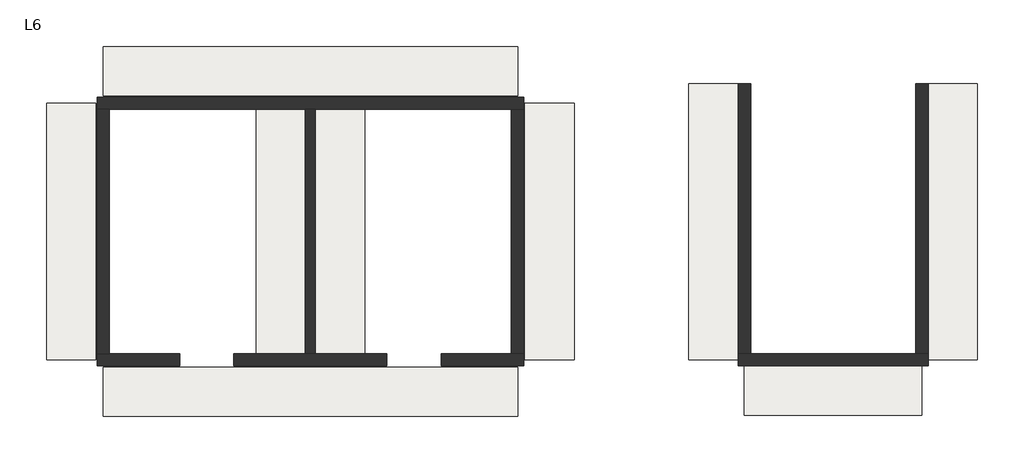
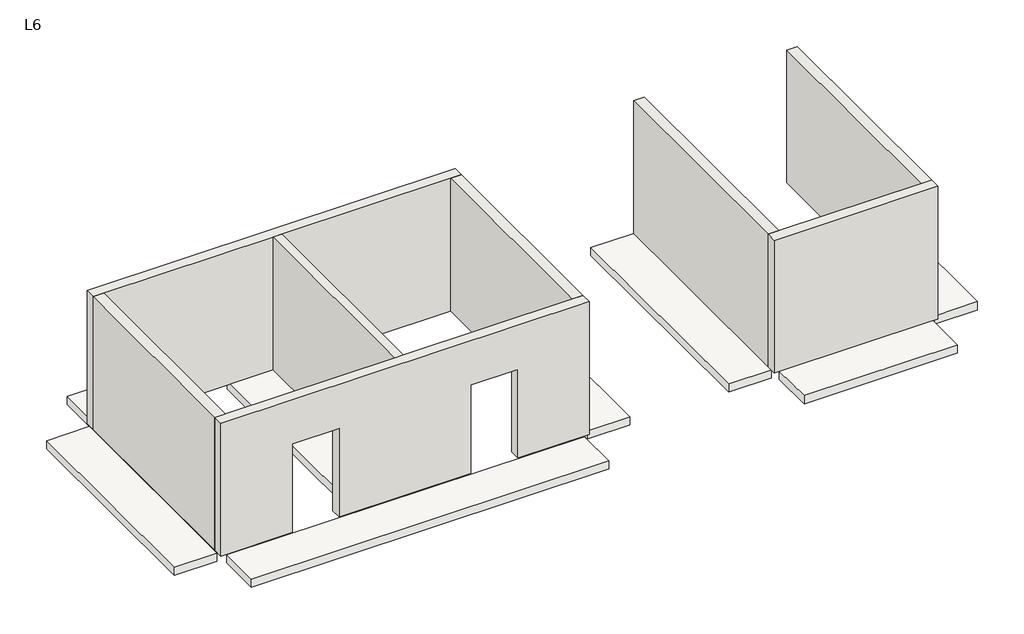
# One storey: 9 slabs, 8 walls.
"""IFC4 building model written with IfcOpenShell, lengths in millimetres."""

from ifc_helpers import new_model, si_unit, frame, origin, place, context, project, spatial, polyline, outline, extrude, faceted_brep, element, save

model = new_model("IFC4")

# Units and contexts
model_context = context("Model", 3, world=origin())
ifc_project = project(units=[si_unit("LENGTHUNIT", "METRE", prefix="MILLI")], contexts=[model_context])

# Site, building, storey
site = spatial("IfcSite", under=ifc_project)
building = spatial("IfcBuilding", under=site)
storey = spatial("IfcBuildingStorey", under=building, Name="L6", Elevation=17700.0)

# Slabs
placement = place(None, origin())
element("IfcSlab", 1, ObjectType="BS-Sàn 200", at=placement, inside=storey, context=model_context, shape_type="SweptSolid", body=[
    extrude(outline(polyline([(0.0, 6350.0), (8400.0, 6350.0), (8400.0, 5350.0), (0.0, 5350.0), (0.0, 6350.0)])), frame((0.0, 0.0, 17500.0), z_axis=(0.0, 0.0, 1.0), x_axis=(1.0, 0.0, 0.0)), (0.0, 0.0, 1.0), 200.0),
])
element("IfcSlab", 2, ObjectType="BS-Sàn 200", at=placement, inside=storey, context=model_context, shape_type="SweptSolid", body=[
    extrude(outline(polyline([(16725.0, 5600.0), (17725.0, 5600.0), (17725.0, 0.0), (16725.0, 0.0), (16725.0, 5600.0)])), frame((0.0, 0.0, 17500.0), z_axis=(0.0, 0.0, 1.0), x_axis=(1.0, 0.0, 0.0)), (0.0, 0.0, 1.0), 200.0),
])
element("IfcSlab", 3, ObjectType="BS-Sàn 200", at=placement, inside=storey, context=model_context, shape_type="SweptSolid", body=[
    extrude(outline(polyline([(11875.0, 5600.0), (12875.0, 5600.0), (12875.0, 0.0), (11875.0, 0.0), (11875.0, 5600.0)])), frame((0.0, 0.0, 17500.0), z_axis=(0.0, 0.0, 1.0), x_axis=(1.0, 0.0, 0.0)), (0.0, 0.0, 1.0), 200.0),
])
element("IfcSlab", 4, ObjectType="BS-Sàn 200", at=placement, inside=storey, context=model_context, shape_type="SweptSolid", body=[
    extrude(outline(polyline([(4300.0, 5200.0), (5300.0, 5200.0), (5300.0, 0.0), (4300.0, 0.0), (4300.0, 5200.0)])), frame((0.0, 0.0, 17500.0), z_axis=(0.0, 0.0, 1.0), x_axis=(1.0, 0.0, 0.0)), (0.0, 0.0, 1.0), 200.0),
])
element("IfcSlab", 5, ObjectType="BS-Sàn 200", at=placement, inside=storey, context=model_context, shape_type="SweptSolid", body=[
    extrude(outline(polyline([(3100.0, 5200.0), (4100.0, 5200.0), (4100.0, 0.0), (3100.0, 0.0), (3100.0, 5200.0)])), frame((0.0, 0.0, 17500.0), z_axis=(0.0, 0.0, 1.0), x_axis=(1.0, 0.0, 0.0)), (0.0, 0.0, 1.0), 200.0),
])
element("IfcSlab", 6, ObjectType="BS-Sàn 200", at=placement, inside=storey, context=model_context, shape_type="SweptSolid", body=[
    extrude(outline(polyline([(8550.0, 5200.0), (9550.0, 5200.0), (9550.0, 0.0), (8550.0, 0.0), (8550.0, 5200.0)])), frame((0.0, 0.0, 17500.0), z_axis=(0.0, 0.0, 1.0), x_axis=(1.0, 0.0, 0.0)), (0.0, 0.0, 1.0), 200.0),
])
element("IfcSlab", 7, ObjectType="BS-Sàn 200", at=placement, inside=storey, context=model_context, shape_type="SweptSolid", body=[
    extrude(outline(polyline([(-1150.0, 5200.0), (-150.0, 5200.0), (-150.0, 0.0), (-1150.0, 0.0), (-1150.0, 5200.0)])), frame((0.0, 0.0, 17500.0), z_axis=(0.0, 0.0, 1.0), x_axis=(1.0, 0.0, 0.0)), (0.0, 0.0, 1.0), 200.0),
])
element("IfcSlab", 8, ObjectType="BS-Sàn 200", at=placement, inside=storey, context=model_context, shape_type="SweptSolid", body=[
    extrude(outline(polyline([(13000.0, -125.0), (16600.0, -125.0), (16600.0, -1125.0), (13000.0, -1125.0), (13000.0, -125.0)])), frame((0.0, 0.0, 17500.0), z_axis=(0.0, 0.0, 1.0), x_axis=(1.0, 0.0, 0.0)), (0.0, 0.0, 1.0), 200.0),
])
element("IfcSlab", 9, ObjectType="BS-Sàn 200", at=placement, inside=storey, context=model_context, shape_type="SweptSolid", body=[
    extrude(outline(polyline([(0.0, -150.0), (8400.0, -150.0), (8400.0, -1150.0), (0.0, -1150.0), (0.0, -150.0)])), frame((0.0, 0.0, 17500.0), z_axis=(0.0, 0.0, 1.0), x_axis=(1.0, 0.0, 0.0)), (0.0, 0.0, 1.0), 200.0),
])

# Walls
element("IfcWall", 10, ObjectType="BS-Vách 250", at=placement, inside=storey, context=model_context, shape_type="Brep", body=[
    faceted_brep([(-125.0, 5075.0, 17700.0), (125.0, 5075.0, 17700.0), (4100.0, 5075.0, 17700.0), (4300.0, 5075.0, 17700.0), (8275.0, 5075.0, 17700.0), (8525.0, 5075.0, 17700.0), (8525.0, 5075.0, 21000.0), (8275.0, 5075.0, 21000.0), (4300.0, 5075.0, 21000.0), (4100.0, 5075.0, 21000.0), (125.0, 5075.0, 21000.0), (-125.0, 5075.0, 21000.0), (-125.0, 5325.0, 17700.0), (-125.0, 5325.0, 21000.0), (8525.0, 5325.0, 21000.0), (8525.0, 5325.0, 17700.0)], [[[0, 1, 2, 3, 4, 5, 6, 7, 8, 9, 10, 11]], [[12, 13, 14, 15]], [[5, 4, 3, 2, 1, 0, 12, 15]], [[11, 10, 9, 8, 7, 6, 14, 13]], [[6, 5, 15, 14]], [[0, 11, 13, 12]]]),
])
element("IfcWall", 11, ObjectType="BS-Vách 250", at=placement, inside=storey, context=model_context, shape_type="Brep", body=[
    faceted_brep([(8525.0, -125.0, 17700.0), (8525.0, -125.0, 21000.0), (-125.0, -125.0, 21000.0), (-125.0, -125.0, 17700.0), (1550.0, -125.0, 17700.0), (1550.0, -125.0, 19900.0), (2650.0, -125.0, 19900.0), (2650.0, -125.0, 17700.0), (5750.0, -125.0, 17700.0), (5750.0, -125.0, 19900.0), (6850.0, -125.0, 19900.0), (6850.0, -125.0, 17700.0), (8525.0, 125.0, 21000.0), (8525.0, 125.0, 17700.0), (8275.0, 125.0, 17700.0), (6850.0, 125.0, 17700.0), (6850.0, 125.0, 19900.0), (5750.0, 125.0, 19900.0), (5750.0, 125.0, 17700.0), (4300.0, 125.0, 17700.0), (4100.0, 125.0, 17700.0), (2650.0, 125.0, 17700.0), (2650.0, 125.0, 19900.0), (1550.0, 125.0, 19900.0), (1550.0, 125.0, 17700.0), (125.0, 125.0, 17700.0), (-125.0, 125.0, 17700.0), (-125.0, 125.0, 21000.0), (125.0, 125.0, 21000.0), (4100.0, 125.0, 21000.0), (4300.0, 125.0, 21000.0), (8275.0, 125.0, 21000.0)], [[[0, 1, 2, 3, 4, 5, 6, 7, 8, 9, 10, 11]], [[12, 13, 14, 15, 16, 17, 18, 19, 20, 21, 22, 23, 24, 25, 26, 27, 28, 29, 30, 31]], [[7, 21, 20, 19, 18, 8]], [[13, 0, 11, 15, 14]], [[3, 26, 25, 24, 4]], [[2, 1, 12, 31, 30, 29, 28, 27]], [[5, 23, 22, 6]], [[23, 5, 4, 24]], [[6, 22, 21, 7]], [[9, 17, 16, 10]], [[17, 9, 8, 18]], [[10, 16, 15, 11]], [[1, 0, 13, 12]], [[3, 2, 27, 26]]]),
])
element("IfcWall", 12, ObjectType="BS-Vách 250", at=placement, inside=storey, context=model_context, shape_type="SweptSolid", body=[
    extrude(outline(polyline([(125.0, 5075.0), (125.0, 125.0), (-125.0, 125.0), (-125.0, 5075.0), (125.0, 5075.0)])), frame((0.0, 0.0, 17700.0), z_axis=(0.0, 0.0, 1.0), x_axis=(1.0, 0.0, 0.0)), (0.0, 0.0, 1.0), 3300.0),
])
element("IfcWall", 13, ObjectType="BS-Vách 250", at=placement, inside=storey, context=model_context, shape_type="SweptSolid", body=[
    extrude(outline(polyline([(8525.0, 5075.0), (8525.0, 125.0), (8275.0, 125.0), (8275.0, 5075.0), (8525.0, 5075.0)])), frame((0.0, 0.0, 17700.0), z_axis=(0.0, 0.0, 1.0), x_axis=(1.0, 0.0, 0.0)), (0.0, 0.0, 1.0), 3300.0),
])
element("IfcWall", 14, ObjectType="BS-Vách 200", at=placement, inside=storey, context=model_context, shape_type="SweptSolid", body=[
    extrude(outline(polyline([(4300.0, 5075.0), (4300.0, 125.0), (4100.0, 125.0), (4100.0, 5075.0), (4300.0, 5075.0)])), frame((0.0, 0.0, 17700.0), z_axis=(0.0, 0.0, 1.0), x_axis=(1.0, 0.0, 0.0)), (0.0, 0.0, 1.0), 3300.0),
])
element("IfcWall", 15, ObjectType="BS-Vách 250", at=placement, inside=storey, context=model_context, shape_type="Brep", body=[
    faceted_brep([(12875.0, -125.0, 17700.0), (16725.0, -125.0, 17700.0), (16725.0, -125.0, 21000.0), (12875.0, -125.0, 21000.0), (12875.0, 125.0, 17700.0), (12875.0, 125.0, 21000.0), (13125.0, 125.0, 21000.0), (16475.0, 125.0, 21000.0), (16725.0, 125.0, 21000.0), (16725.0, 125.0, 17700.0), (16475.0, 125.0, 17700.0), (13125.0, 125.0, 17700.0)], [[[0, 1, 2, 3]], [[4, 5, 6, 7, 8, 9, 10, 11]], [[1, 0, 4, 11, 10, 9]], [[3, 2, 8, 7, 6, 5]], [[2, 1, 9, 8]], [[0, 3, 5, 4]]]),
])
element("IfcWall", 16, ObjectType="BS-Vách 250", at=placement, inside=storey, context=model_context, shape_type="SweptSolid", body=[
    extrude(outline(polyline([(13125.0, 5600.0), (13125.0, 125.0), (12875.0, 125.0), (12875.0, 5600.0), (13125.0, 5600.0)])), frame((0.0, 0.0, 17700.0), z_axis=(0.0, 0.0, 1.0), x_axis=(1.0, 0.0, 0.0)), (0.0, 0.0, 1.0), 3300.0),
])
element("IfcWall", 17, ObjectType="BS-Vách 250", at=placement, inside=storey, context=model_context, shape_type="SweptSolid", body=[
    extrude(outline(polyline([(16725.0, 5600.0), (16725.0, 125.0), (16475.0, 125.0), (16475.0, 5600.0), (16725.0, 5600.0)])), frame((0.0, 0.0, 17700.0), z_axis=(0.0, 0.0, 1.0), x_axis=(1.0, 0.0, 0.0)), (0.0, 0.0, 1.0), 3300.0),
])

save(model, "model.ifc")
